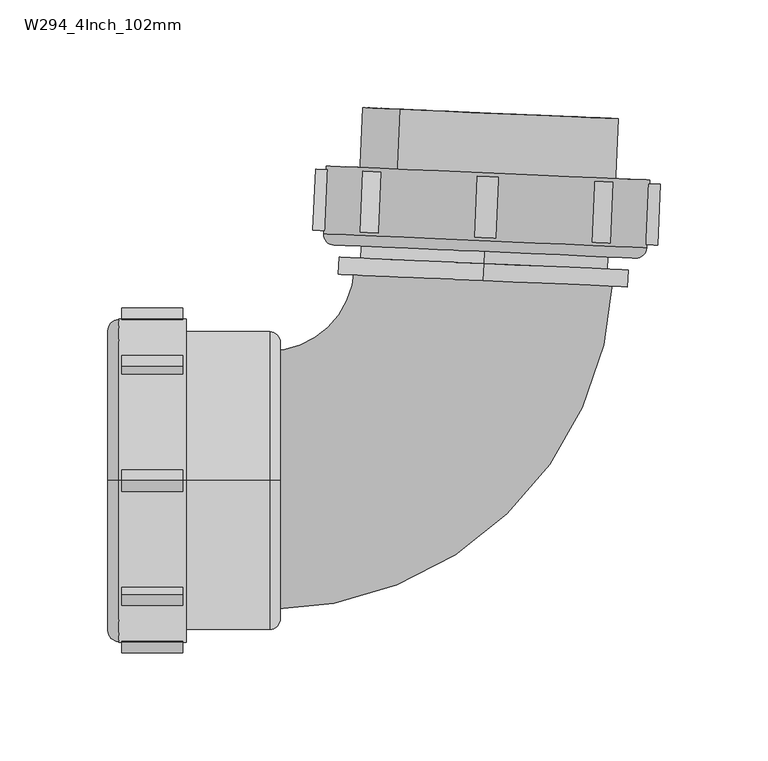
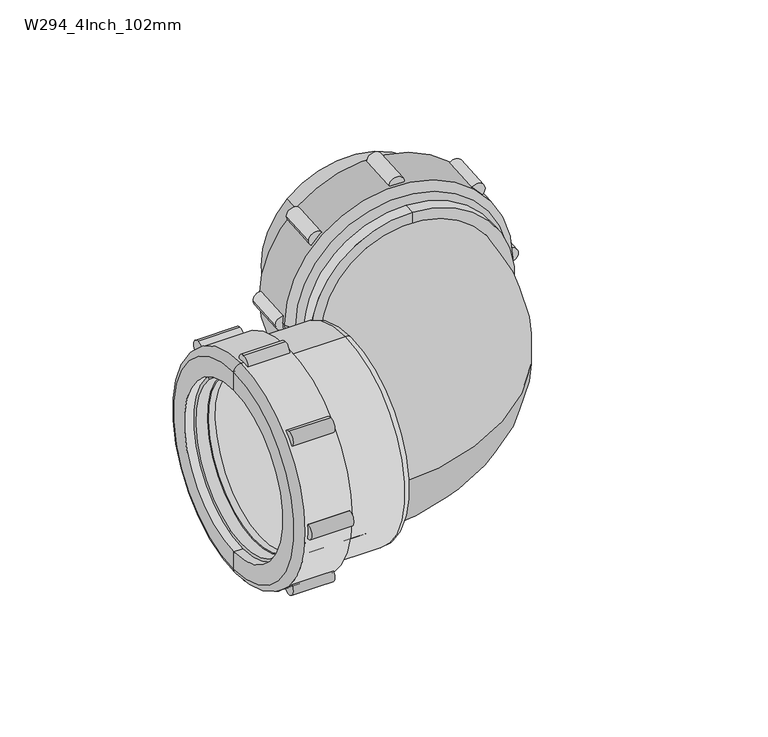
"""IFC4 building model written with IfcOpenShell, lengths in millimetres: pipe fitting geometry, Durapipe_PipeFitting_VulcatheneMechanical_92.5LooseNutSweepBend_W29 : W294_4Inch_102mm."""

from ifc_helpers import new_model, si_unit, point, frame, frame_2d, origin, place, context, project, spatial, polyline, circle_curve, ellipse_curve, trimmed, segment, composite_curve, outline, extrude, source, transform, mapped, element, save
from ifc_brep_helpers import plane_surface, cylinder_surface, revolved_surface, advanced_brep


def w294_4inch_102mm_0dffa293(model_context):
    return source(origin(), model_context, "Body", "SolidModel", [
        advanced_brep(
        [(-40.4718504, 113.7779661, 45.3962554), (-34.4671633, 113.5157958, 39.3858477), (44.2295589, 110.0798227, -39.3858477), (50.2342459, 109.8176524, -45.3962554), (47.7942665, 131.7449528, -42.0021428), (-36.1300657, 135.4091682, 42.0021428), (-34.5205103, 172.2740476, 42.0021428), (49.4038219, 168.6098321, -42.0021428), (47.7790242, 168.6807723, -40.3757972), (-32.8957126, 172.2031074, 40.3757972), (45.7725324, 122.7245541, -40.3757972), (-34.9022044, 126.2468892, 40.3757972), (44.2890215, 122.7893256, -38.890873), (-33.4186935, 126.1821177, 38.890873), (-34.1094844, 121.7079912, 39.3858477), (-33.6149807, 121.6864007, 38.890873), (44.0927342, 118.2936086, -38.890873), (44.5872379, 118.2720181, -39.3858477)],
        [
            (0, 1),
            (1, 2, circle_curve(frame((4.8811978, 111.7978093, 0.0), z_axis=(0.04361938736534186, 0.9990482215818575, 0.0), x_axis=(0.7064337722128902, -0.030843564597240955, -0.7071067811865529)), 55.7)),
            (2, 3),
            (3, 0, circle_curve(frame((4.8811978, 111.7978093, 0.0), z_axis=(-0.04361938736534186, -0.9990482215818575, 0.0), x_axis=(0.7064337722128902, -0.030843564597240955, -0.7071067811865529)), 64.2)),
            (2, 1, circle_curve(frame((4.8811978, 111.7978093, 0.0), z_axis=(0.04361938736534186, 0.9990482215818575, 0.0), x_axis=(0.7064337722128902, -0.030843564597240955, -0.7071067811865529)), 55.7)),
            (0, 3, circle_curve(frame((4.8811978, 111.7978093, 0.0), z_axis=(-0.04361938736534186, -0.9990482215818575, 0.0), x_axis=(0.7064337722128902, -0.030843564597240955, -0.7071067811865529)), 64.2)),
            (3, 4),
            (4, 5, circle_curve(frame((5.8321004, 133.5770605, 0.0), z_axis=(-0.04361938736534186, -0.9990482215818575, 0.0), x_axis=(0.7064337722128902, -0.030843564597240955, -0.7071067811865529)), 59.4)),
            (5, 0),
            (5, 4, circle_curve(frame((5.8321004, 133.5770605, 0.0), z_axis=(-0.04361938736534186, -0.9990482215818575, 0.0), x_axis=(0.7064337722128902, -0.030843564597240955, -0.7071067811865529)), 59.4)),
            (6, 5),
            (4, 7),
            (7, 6, circle_curve(frame((7.4416558, 170.4419399, 0.0), z_axis=(-0.04361938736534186, -0.9990482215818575, 0.0), x_axis=(0.7064337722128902, -0.030843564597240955, -0.7071067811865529)), 59.4)),
            (6, 7, circle_curve(frame((7.4416558, 170.4419399, 0.0), z_axis=(-0.04361938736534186, -0.9990482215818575, 0.0), x_axis=(0.7064337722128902, -0.030843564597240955, -0.7071067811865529)), 59.4)),
            (7, 8),
            (8, 9, circle_curve(frame((7.4416558, 170.4419399, 0.0), z_axis=(-0.04361938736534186, -0.9990482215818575, 0.0), x_axis=(0.7064337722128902, -0.030843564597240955, -0.7071067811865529)), 57.1)),
            (9, 6),
            (9, 8, circle_curve(frame((7.4416558, 170.4419399, 0.0), z_axis=(-0.04361938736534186, -0.9990482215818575, 0.0), x_axis=(0.7064337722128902, -0.030843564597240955, -0.7071067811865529)), 57.1)),
            (8, 10),
            (10, 11, circle_curve(frame((5.435164, 124.4857217, 0.0), z_axis=(-0.04361938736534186, -0.9990482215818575, 0.0), x_axis=(0.7064337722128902, -0.030843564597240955, -0.7071067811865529)), 57.1)),
            (11, 9),
            (11, 10, circle_curve(frame((5.435164, 124.4857217, 0.0), z_axis=(-0.04361938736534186, -0.9990482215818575, 0.0), x_axis=(0.7064337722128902, -0.030843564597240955, -0.7071067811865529)), 57.1)),
            (10, 12),
            (12, 13, circle_curve(frame((5.435164, 124.4857217, 0.0), z_axis=(-0.04361938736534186, -0.9990482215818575, 0.0), x_axis=(0.7064337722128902, -0.030843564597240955, -0.7071067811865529)), 55.0)),
            (13, 11),
            (13, 12, circle_curve(frame((5.435164, 124.4857217, 0.0), z_axis=(-0.04361938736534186, -0.9990482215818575, 0.0), x_axis=(0.7064337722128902, -0.030843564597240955, -0.7071067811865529)), 55.0)),
            (14, 15),
            (15, 16, circle_curve(frame((5.2388767, 119.9900047, 0.0), z_axis=(0.04361938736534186, 0.9990482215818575, 0.0), x_axis=(0.7064337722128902, -0.030843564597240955, -0.7071067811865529)), 55.0)),
            (16, 17),
            (17, 14, circle_curve(frame((5.2388767, 119.9900047, 0.0), z_axis=(-0.04361938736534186, -0.9990482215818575, 0.0), x_axis=(0.7064337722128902, -0.030843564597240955, -0.7071067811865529)), 55.7)),
            (16, 15, circle_curve(frame((5.2388767, 119.9900047, 0.0), z_axis=(0.04361938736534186, 0.9990482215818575, 0.0), x_axis=(0.7064337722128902, -0.030843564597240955, -0.7071067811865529)), 55.0)),
            (14, 17, circle_curve(frame((5.2388767, 119.9900047, 0.0), z_axis=(-0.04361938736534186, -0.9990482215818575, 0.0), x_axis=(0.7064337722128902, -0.030843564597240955, -0.7071067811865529)), 55.7)),
            (1, 14),
            (17, 2),
            (12, 16),
            (15, 13),
        ],
        [
            plane_surface(frame((4.8811978, 111.7978093, 0.0), z_axis=(-0.04361938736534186, -0.9990482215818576, 0.0), x_axis=(0.7064337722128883, -0.030843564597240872, -0.707106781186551))),
            revolved_surface(polyline([(50.2342459, 109.8176524, -45.3962554), (47.7942665, 131.7449528, -42.0021428)]), (4.6631008, 106.8025682, 0.0), (0.04361938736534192, 0.9990482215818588, 0.0)),
            cylinder_surface(frame((7.5319765, 172.5106248, 0.0), z_axis=(0.04361938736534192, 0.9990482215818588, 0.0), x_axis=(0.7064337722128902, -0.030843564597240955, -0.7071067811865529)), 59.4),
            plane_surface(frame((7.4416558, 170.4419399, 0.0), z_axis=(0.04361938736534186, 0.9990482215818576, 0.0), x_axis=(0.7064337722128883, -0.030843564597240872, -0.707106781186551))),
            revolved_surface(polyline([(47.77902416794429, 168.68077236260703, -40.37579720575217), (45.772532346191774, 122.7245541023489, -40.37579720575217)]), (7.5940179, 173.9316063, 0.0), (0.04361938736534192, 0.9990482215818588, 0.0)),
            plane_surface(frame((5.435164, 124.4857217, 0.0), z_axis=(0.04361938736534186, 0.9990482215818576, 0.0), x_axis=(0.7064337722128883, -0.030843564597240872, -0.707106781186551))),
            plane_surface(frame((5.2388767, 119.9900047, 0.0), z_axis=(-0.04361938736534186, -0.9990482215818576, 0.0), x_axis=(0.7064337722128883, -0.030843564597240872, -0.707106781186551))),
            revolved_surface(polyline([(44.5872378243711, 118.27201815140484, -39.385847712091), (44.22955884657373, 110.07982270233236, -39.385847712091)]), (4.6631008, 106.8025682, 0.0), (0.04361938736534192, 0.9990482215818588, 0.0)),
            revolved_surface(polyline([(44.28902144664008, 122.78932564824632, -38.89087296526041), (44.09273420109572, 118.29360859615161, -38.89087296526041)]), (4.8128814, 110.2331075, 0.0), (0.04361938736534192, 0.9990482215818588, 0.0)),
        ],
        [
            (0, [[1, 2, 3, 4]]),
            (0, [[5, -1, 6, -3]]),
            (1, [[7, 8, 9, -4]]),
            (1, [[-9, 10, -7, -6]]),
            (2, [[11, -8, 12, 13]]),
            (2, [[-10, -11, 14, -12]]),
            (3, [[15, 16, 17, -13]]),
            (3, [[-17, 18, -15, -14]]),
            (4, [[-16, 19, 20, 21]]),
            (4, [[22, -19, -18, -21]]),
            (5, [[23, 24, 25, -20]]),
            (5, [[-25, 26, -23, -22]]),
            (6, [[27, 28, 29, 30]]),
            (6, [[-29, 31, -27, 32]]),
            (7, [[33, -30, 34, -2]]),
            (7, [[-34, -32, -33, -5]]),
            (8, [[-24, 35, -28, 36]]),
            (8, [[-31, -35, -26, -36]]),
        ],
    ),
        advanced_brep(
        [(-68.6952178, 146.0397582, 0.0), (-70.0692285, 114.5697392, 0.0), (79.7880047, 108.0268311, 0.0), (81.1620154, 139.4968501, 0.0), (-59.7037838, 145.6471837, 0.0), (72.1705814, 139.8894246, 0.0), (-65.2920844, 109.3564012, 0.0), (-52.8039816, 108.8111588, 0.0), (62.0865639, 103.7949293, 0.0), (74.5746666, 103.2496869, 0.0), (-61.0559849, 114.6766888, 0.0), (70.8183804, 108.9189297, 0.0), (-52.564075, 114.305924, 0.0), (62.3264705, 109.2896945, 0.0)],
        [
            (0, 1),
            (1, 2, circle_curve(frame((4.8593881, 111.2982852, 0.0), z_axis=(0.0436193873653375, 0.9990482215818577, 0.0), x_axis=(0.9990482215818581, -0.04361938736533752, 0.0)), 75.0)),
            (2, 3),
            (3, 0, circle_curve(frame((6.2333988, 142.7683041, 0.0), z_axis=(-0.0436193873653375, -0.9990482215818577, 0.0), x_axis=(0.9990482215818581, -0.04361938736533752, 0.0)), 75.0)),
            (2, 1, circle_curve(frame((4.8593881, 111.2982852, 0.0), z_axis=(0.0436193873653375, 0.9990482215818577, 0.0), x_axis=(0.9990482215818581, -0.04361938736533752, 0.0)), 75.0)),
            (0, 3, circle_curve(frame((6.2333988, 142.7683041, 0.0), z_axis=(-0.0436193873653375, -0.9990482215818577, 0.0), x_axis=(0.9990482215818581, -0.04361938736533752, 0.0)), 75.0)),
            (4, 0),
            (3, 5),
            (5, 4, circle_curve(frame((6.2333988, 142.7683041, 0.0), z_axis=(-0.0436193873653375, -0.9990482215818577, 0.0), x_axis=(0.9990482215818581, -0.04361938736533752, 0.0)), 66.0)),
            (4, 5, circle_curve(frame((6.2333988, 142.7683041, 0.0), z_axis=(-0.0436193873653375, -0.9990482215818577, 0.0), x_axis=(0.9990482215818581, -0.04361938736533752, 0.0)), 66.0)),
            (6, 7),
            (7, 8, circle_curve(frame((4.6412911, 106.3030441, 0.0), z_axis=(0.0436193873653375, 0.9990482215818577, 0.0), x_axis=(0.9990482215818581, -0.04361938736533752, 0.0)), 57.5)),
            (8, 9),
            (9, 6, circle_curve(frame((4.6412911, 106.3030441, 0.0), z_axis=(-0.0436193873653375, -0.9990482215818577, 0.0), x_axis=(0.9990482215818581, -0.04361938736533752, 0.0)), 70.0)),
            (8, 7, circle_curve(frame((4.6412911, 106.3030441, 0.0), z_axis=(0.0436193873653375, 0.9990482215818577, 0.0), x_axis=(0.9990482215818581, -0.04361938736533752, 0.0)), 57.5)),
            (6, 9, circle_curve(frame((4.6412911, 106.3030441, 0.0), z_axis=(-0.0436193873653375, -0.9990482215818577, 0.0), x_axis=(0.9990482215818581, -0.04361938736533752, 0.0)), 70.0)),
            (1, 6, circle_curve(frame((-65.0739874, 114.3516423, 0.0), z_axis=(0.0, 0.0, 1.0000000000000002), x_axis=(-0.043619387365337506, -0.9990482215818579, 0.0)), 5.0)),
            (9, 2, circle_curve(frame((74.7927636, 108.244928, 0.0), z_axis=(0.0, 0.0, 1.0000000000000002), x_axis=(-0.043619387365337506, -0.9990482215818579, 0.0)), 5.0)),
            (10, 4),
            (5, 11),
            (11, 10, circle_curve(frame((4.8811978, 111.7978093, 0.0), z_axis=(-0.0436193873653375, -0.9990482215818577, 0.0), x_axis=(0.9990482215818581, -0.04361938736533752, 0.0)), 66.0)),
            (10, 11, circle_curve(frame((4.8811978, 111.7978093, 0.0), z_axis=(-0.0436193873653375, -0.9990482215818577, 0.0), x_axis=(0.9990482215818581, -0.04361938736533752, 0.0)), 66.0)),
            (12, 10),
            (11, 13),
            (13, 12, circle_curve(frame((4.8811978, 111.7978093, 0.0), z_axis=(-0.0436193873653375, -0.9990482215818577, 0.0), x_axis=(0.9990482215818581, -0.04361938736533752, 0.0)), 57.5)),
            (12, 13, circle_curve(frame((4.8811978, 111.7978093, 0.0), z_axis=(-0.0436193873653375, -0.9990482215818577, 0.0), x_axis=(0.9990482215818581, -0.04361938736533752, 0.0)), 57.5)),
            (7, 12),
            (13, 8),
        ],
        [
            cylinder_surface(frame((-63.439928, -1453.0132368, 0.0), z_axis=(0.043619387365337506, 0.9990482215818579, 0.0), x_axis=(0.9990482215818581, -0.04361938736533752, 0.0)), 75.0),
            plane_surface(frame((6.2333988, 142.7683041, 0.0), z_axis=(0.0436193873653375, 0.9990482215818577, 0.0), x_axis=(0.9990482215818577, -0.0436193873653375, 0.0))),
            plane_surface(frame((4.6412911, 106.3030441, 0.0), z_axis=(-0.0436193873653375, -0.9990482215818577, 0.0), x_axis=(0.9990482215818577, -0.0436193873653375, 0.0))),
            revolved_surface(trimmed(ellipse_curve(frame((74.7927636, 108.244928, 0.0), z_axis=(0.0, 0.0, 1.0000000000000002), x_axis=(-0.043619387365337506, -0.9990482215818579, 0.0)), 5.0, 5.0), [point((74.5746666, 103.2496869, 0.0))], [point((79.7880047, 108.0268311, 0.0))], True, "CARTESIAN"), (-63.439928, -1453.0132368, 0.0), (0.043619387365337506, 0.9990482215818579, 0.0)),
            revolved_surface(polyline([(72.17058137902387, 139.8894246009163, 0.0), (70.81838036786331, 108.918929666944, 0.0)]), (-63.439928, -1453.0132368, 0.0), (0.043619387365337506, 0.9990482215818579, 0.0)),
            plane_surface(frame((4.8811978, 111.7978093, 0.0), z_axis=(0.0436193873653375, 0.9990482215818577, 0.0), x_axis=(0.9990482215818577, -0.0436193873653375, 0.0))),
            revolved_surface(polyline([(62.326470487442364, 109.2896945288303, 0.0), (62.086563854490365, 103.79492925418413, 0.0)]), (-63.439928, -1453.0132368, 0.0), (0.043619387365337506, 0.9990482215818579, 0.0)),
        ],
        [
            (0, [[1, 2, 3, 4]]),
            (0, [[-3, 5, -1, 6]]),
            (1, [[7, -4, 8, 9]]),
            (1, [[-8, -6, -7, 10]]),
            (2, [[11, 12, 13, 14]]),
            (2, [[-13, 15, -11, 16]]),
            (3, [[17, -14, 18, -2]]),
            (3, [[-18, -16, -17, -5]]),
            (4, [[19, -9, 20, 21]]),
            (4, [[-20, -10, -19, 22]]),
            (5, [[23, -21, 24, 25]]),
            (5, [[-24, -22, -23, 26]]),
            (6, [[27, -25, 28, -12]]),
            (6, [[-28, -26, -27, -15]]),
        ],
    ),
        extrude(outline(composite_curve([segment(trimmed(circle_curve(frame_2d((0.0, 5.0)), 5.0), [point((0.0, 10.0000001))], [point((0.0, 0.0))], False, "CARTESIAN"), True, "CONTINUOUS"), segment(trimmed(circle_curve(frame_2d((0.0, 5.0)), 5.0), [point((0.0, 0.0))], [point((0.0, 10.0000001))], False, "CARTESIAN"), True, "CONTINUOUS")], self_intersect=False)), frame((9.9200583, 112.5787606, -75.0), z_axis=(0.0436193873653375, 0.9990482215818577, 0.0), x_axis=(0.0, 0.0, -1.0)), (0.0, 0.0, 1.0), 28.2),
        extrude(outline(composite_curve([segment(trimmed(circle_curve(frame_2d((-21.9669914, -48.0330086)), 5.0), [point((-21.9669914, -43.0330086))], [point((-21.9669914, -53.0330086))], False, "CARTESIAN"), True, "CONTINUOUS"), segment(trimmed(circle_curve(frame_2d((-21.9669914, -48.0330086)), 5.0), [point((-21.9669914, -53.0330086))], [point((-21.9669914, -43.0330086))], False, "CARTESIAN"), True, "CONTINUOUS")], self_intersect=False)), frame((9.9200583, 112.5787606, -75.0), z_axis=(0.0436193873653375, 0.9990482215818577, 0.0), x_axis=(0.0, 0.0, -1.0)), (0.0, 0.0, 1.0), 28.2),
        extrude(outline(composite_curve([segment(trimmed(circle_curve(frame_2d((-75.0, -70.0)), 5.0), [point((-75.0, -65.0))], [point((-75.0, -75.0))], False, "CARTESIAN"), True, "CONTINUOUS"), segment(trimmed(circle_curve(frame_2d((-75.0, -70.0)), 5.0), [point((-75.0, -75.0))], [point((-75.0, -65.0))], False, "CARTESIAN"), True, "CONTINUOUS")], self_intersect=False)), frame((9.9200583, 112.5787606, -75.0), z_axis=(0.0436193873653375, 0.9990482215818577, 0.0), x_axis=(0.0, 0.0, -1.0)), (0.0, 0.0, 1.0), 28.2),
        extrude(outline(composite_curve([segment(trimmed(circle_curve(frame_2d((-128.0330086, -48.0330086)), 5.0), [point((-128.0330086, -43.0330086))], [point((-128.0330086, -53.0330086))], False, "CARTESIAN"), True, "CONTINUOUS"), segment(trimmed(circle_curve(frame_2d((-128.0330086, -48.0330086)), 5.0), [point((-128.0330086, -53.0330086))], [point((-128.0330086, -43.0330086))], False, "CARTESIAN"), True, "CONTINUOUS")], self_intersect=False)), frame((9.9200583, 112.5787606, -75.0), z_axis=(0.0436193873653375, 0.9990482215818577, 0.0), x_axis=(0.0, 0.0, -1.0)), (0.0, 0.0, 1.0), 28.2),
        extrude(outline(composite_curve([segment(trimmed(circle_curve(frame_2d((-150.0, 5.0)), 5.0), [point((-150.0, 10.0000001))], [point((-150.0, 0.0))], False, "CARTESIAN"), True, "CONTINUOUS"), segment(trimmed(circle_curve(frame_2d((-150.0, 5.0)), 5.0), [point((-150.0, 0.0))], [point((-150.0, 10.0000001))], False, "CARTESIAN"), True, "CONTINUOUS")], self_intersect=False)), frame((9.9200583, 112.5787606, -75.0), z_axis=(0.0436193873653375, 0.9990482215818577, 0.0), x_axis=(0.0, 0.0, -1.0)), (0.0, 0.0, 1.0), 28.2),
        extrude(outline(composite_curve([segment(trimmed(circle_curve(frame_2d((-128.0330086, 58.0330087)), 5.0), [point((-128.0330086, 63.0330087))], [point((-128.0330086, 53.0330087))], False, "CARTESIAN"), True, "CONTINUOUS"), segment(trimmed(circle_curve(frame_2d((-128.0330086, 58.0330087)), 5.0), [point((-128.0330086, 53.0330087))], [point((-128.0330086, 63.0330087))], False, "CARTESIAN"), True, "CONTINUOUS")], self_intersect=False)), frame((9.9200583, 112.5787606, -75.0), z_axis=(0.0436193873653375, 0.9990482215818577, 0.0), x_axis=(0.0, 0.0, -1.0)), (0.0, 0.0, 1.0), 28.2),
        extrude(outline(composite_curve([segment(trimmed(circle_curve(frame_2d((-75.0, 80.0000001)), 5.0), [point((-75.0, 85.0000001))], [point((-75.0, 75.0000001))], False, "CARTESIAN"), True, "CONTINUOUS"), segment(trimmed(circle_curve(frame_2d((-75.0, 80.0000001)), 5.0), [point((-75.0, 75.0000001))], [point((-75.0, 85.0000001))], False, "CARTESIAN"), True, "CONTINUOUS")], self_intersect=False)), frame((9.9200583, 112.5787606, -75.0), z_axis=(0.0436193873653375, 0.9990482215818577, 0.0), x_axis=(0.0, 0.0, -1.0)), (0.0, 0.0, 1.0), 28.2),
        extrude(outline(composite_curve([segment(trimmed(circle_curve(frame_2d((-21.9669914, 58.0330087)), 5.0), [point((-21.9669914, 63.0330087))], [point((-21.9669914, 53.0330087))], False, "CARTESIAN"), True, "CONTINUOUS"), segment(trimmed(circle_curve(frame_2d((-21.9669914, 58.0330087)), 5.0), [point((-21.9669914, 53.0330087))], [point((-21.9669914, 63.0330087))], False, "CARTESIAN"), True, "CONTINUOUS")], self_intersect=False)), frame((9.9200583, 112.5787606, -75.0), z_axis=(0.0436193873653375, 0.9990482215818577, 0.0), x_axis=(0.0, 0.0, -1.0)), (0.0, 0.0, 1.0), 28.2),
        advanced_brep(
        [(7.4460177, 170.5418447, 57.15), (7.4460177, 170.5418447, -57.15), (7.4460177, 170.5418447, -50.95), (7.4460177, 170.5418447, 50.95), (4.3970226, 100.708374, 57.15), (4.3970226, 100.708374, -57.15), (4.3970226, 100.708374, 67.25), (4.3970226, 100.708374, -67.25), (4.0524294, 92.8158931, 67.25), (4.0524294, 92.8158931, -67.25), (4.0524294, 92.8158931, 50.95), (4.0524294, 92.8158931, -50.95)],
        [
            (0, 1, circle_curve(frame((7.4460177, 170.5418447, 0.0), z_axis=(0.04361938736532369, 0.9990482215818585, 0.0), x_axis=(0.0, 0.0, -1.0)), 57.15)),
            (1, 2),
            (2, 3, circle_curve(frame((7.4460177, 170.5418447, 0.0), z_axis=(-0.04361938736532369, -0.9990482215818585, 0.0), x_axis=(0.0, 0.0, -1.0)), 50.95)),
            (3, 0),
            (1, 0, circle_curve(frame((7.4460177, 170.5418447, 0.0), z_axis=(0.04361938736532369, 0.9990482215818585, 0.0), x_axis=(0.0, 0.0, -1.0)), 57.15)),
            (3, 2, circle_curve(frame((7.4460177, 170.5418447, 0.0), z_axis=(-0.04361938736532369, -0.9990482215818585, 0.0), x_axis=(0.0, 0.0, -1.0)), 50.95)),
            (4, 5, circle_curve(frame((4.3970226, 100.708374, 0.0), z_axis=(0.04361938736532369, 0.9990482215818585, 0.0), x_axis=(0.0, 0.0, -1.0)), 57.15)),
            (5, 1),
            (0, 4),
            (5, 4, circle_curve(frame((4.3970226, 100.708374, 0.0), z_axis=(0.04361938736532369, 0.9990482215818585, 0.0), x_axis=(0.0, 0.0, -1.0)), 57.15)),
            (6, 7, circle_curve(frame((4.3970226, 100.708374, 0.0), z_axis=(0.04361938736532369, 0.9990482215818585, 0.0), x_axis=(0.0, 0.0, -1.0)), 67.25)),
            (7, 5),
            (4, 6),
            (7, 6, circle_curve(frame((4.3970226, 100.708374, 0.0), z_axis=(0.04361938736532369, 0.9990482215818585, 0.0), x_axis=(0.0, 0.0, -1.0)), 67.25)),
            (8, 9, circle_curve(frame((4.0524294, 92.8158931, 0.0), z_axis=(0.04361938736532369, 0.9990482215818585, 0.0), x_axis=(0.0, 0.0, -1.0)), 67.25)),
            (9, 7),
            (6, 8),
            (9, 8, circle_curve(frame((4.0524294, 92.8158931, 0.0), z_axis=(0.04361938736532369, 0.9990482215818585, 0.0), x_axis=(0.0, 0.0, -1.0)), 67.25)),
            (10, 11, circle_curve(frame((4.0524294, 92.8158931, 0.0), z_axis=(0.04361938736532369, 0.9990482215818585, 0.0), x_axis=(0.0, 0.0, -1.0)), 50.95)),
            (11, 9),
            (8, 10),
            (11, 10, circle_curve(frame((4.0524294, 92.8158931, 0.0), z_axis=(0.04361938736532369, 0.9990482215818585, 0.0), x_axis=(0.0, 0.0, -1.0)), 50.95)),
            (2, 11),
            (10, 3),
        ],
        [
            plane_surface(frame((7.4460177, 170.5418447, 0.0), z_axis=(0.04361938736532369, 0.9990482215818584, 0.0), x_axis=(0.0, 0.0, -1.0))),
            cylinder_surface(frame((7.8822116, 180.5323269, 0.0), z_axis=(-0.043619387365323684, -0.9990482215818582, 0.0), x_axis=(0.0, 0.0, -1.0)), 57.15),
            plane_surface(frame((4.3970226, 100.708374, 0.0), z_axis=(0.04361938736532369, 0.9990482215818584, 0.0), x_axis=(0.0, 0.0, -1.0))),
            cylinder_surface(frame((7.8822116, 180.5323269, 0.0), z_axis=(-0.043619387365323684, -0.9990482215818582, 0.0), x_axis=(0.0, 0.0, -1.0)), 67.25),
            plane_surface(frame((4.0524294, 92.8158931, 0.0), z_axis=(-0.04361938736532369, -0.9990482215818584, 0.0), x_axis=(0.0, 0.0, -1.0))),
            revolved_surface(polyline([(4.052429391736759, 92.8158931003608, -50.95), (7.446017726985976, 170.5418446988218, -50.95)]), (7.8822116, 180.5323269, 0.0), (-0.043619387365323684, -0.9990482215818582, 0.0)),
        ],
        [
            (0, [[1, 2, 3, 4]]),
            (0, [[5, -4, 6, -2]]),
            (1, [[7, 8, -1, 9]]),
            (1, [[10, -9, -5, -8]]),
            (2, [[11, 12, -7, 13]]),
            (2, [[14, -13, -10, -12]]),
            (3, [[15, 16, -11, 17]]),
            (3, [[18, -17, -14, -16]]),
            (4, [[19, 20, -15, 21]]),
            (4, [[22, -21, -18, -20]]),
            (5, [[-3, 23, -19, 24]]),
            (5, [[-6, -24, -22, -23]]),
        ],
    ),
        advanced_brep(
        [(-163.8291742, -45.3962554, -45.3962554), (-163.8291742, 45.3962554, 45.3962554), (-163.8291742, 39.3858477, 39.3858477), (-163.8291742, -39.3858477, -39.3858477), (-142.0291742, -42.0021428, -42.0021428), (-142.0291742, 42.0021428, 42.0021428), (-105.1291742, -42.0021428, -42.0021428), (-105.1291742, 42.0021428, 42.0021428), (-105.1291742, -40.3757972, -40.3757972), (-105.1291742, 40.3757972, 40.3757972), (-151.1291742, -40.3757972, -40.3757972), (-151.1291742, 40.3757972, 40.3757972), (-151.1291742, -38.890873, -38.890873), (-151.1291742, 38.890873, 38.890873), (-155.6291742, -39.3858477, -39.3858477), (-155.6291742, 39.3858477, 39.3858477), (-155.6291742, 38.890873, 38.890873), (-155.6291742, -38.890873, -38.890873)],
        [
            (0, 1, circle_curve(frame((-163.8291742, 0.0, 0.0), z_axis=(-1.0, 0.0, 0.0), x_axis=(0.0, 0.7071067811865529, 0.7071067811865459)), 64.2)),
            (1, 2),
            (2, 3, circle_curve(frame((-163.8291742, 0.0, 0.0), z_axis=(1.0, 0.0, 0.0), x_axis=(0.0, 0.7071067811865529, 0.7071067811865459)), 55.7)),
            (3, 0),
            (1, 0, circle_curve(frame((-163.8291742, 0.0, 0.0), z_axis=(-1.0, 0.0, 0.0), x_axis=(0.0, 0.7071067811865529, 0.7071067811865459)), 64.2)),
            (3, 2, circle_curve(frame((-163.8291742, 0.0, 0.0), z_axis=(1.0, 0.0, 0.0), x_axis=(0.0, 0.7071067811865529, 0.7071067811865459)), 55.7)),
            (0, 4),
            (4, 5, circle_curve(frame((-142.0291742, 0.0, 0.0), z_axis=(-1.0, 0.0, 0.0), x_axis=(0.0, 0.7071067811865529, 0.7071067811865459)), 59.4)),
            (5, 1),
            (5, 4, circle_curve(frame((-142.0291742, 0.0, 0.0), z_axis=(-1.0, 0.0, 0.0), x_axis=(0.0, 0.7071067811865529, 0.7071067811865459)), 59.4)),
            (6, 7, circle_curve(frame((-105.1291742, 0.0, 0.0), z_axis=(-1.0, 0.0, 0.0), x_axis=(0.0, 0.7071067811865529, 0.7071067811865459)), 59.4)),
            (7, 5),
            (4, 6),
            (7, 6, circle_curve(frame((-105.1291742, 0.0, 0.0), z_axis=(-1.0, 0.0, 0.0), x_axis=(0.0, 0.7071067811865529, 0.7071067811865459)), 59.4)),
            (6, 8),
            (8, 9, circle_curve(frame((-105.1291742, 0.0, 0.0), z_axis=(-1.0, 0.0, 0.0), x_axis=(0.0, 0.7071067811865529, 0.7071067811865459)), 57.1)),
            (9, 7),
            (9, 8, circle_curve(frame((-105.1291742, 0.0, 0.0), z_axis=(-1.0, 0.0, 0.0), x_axis=(0.0, 0.7071067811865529, 0.7071067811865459)), 57.1)),
            (8, 10),
            (10, 11, circle_curve(frame((-151.1291742, 0.0, 0.0), z_axis=(-1.0, 0.0, 0.0), x_axis=(0.0, 0.7071067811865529, 0.7071067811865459)), 57.1)),
            (11, 9),
            (11, 10, circle_curve(frame((-151.1291742, 0.0, 0.0), z_axis=(-1.0, 0.0, 0.0), x_axis=(0.0, 0.7071067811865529, 0.7071067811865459)), 57.1)),
            (10, 12),
            (12, 13, circle_curve(frame((-151.1291742, 0.0, 0.0), z_axis=(-1.0, 0.0, 0.0), x_axis=(0.0, 0.7071067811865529, 0.7071067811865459)), 55.0)),
            (13, 11),
            (13, 12, circle_curve(frame((-151.1291742, 0.0, 0.0), z_axis=(-1.0, 0.0, 0.0), x_axis=(0.0, 0.7071067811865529, 0.7071067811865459)), 55.0)),
            (14, 15, circle_curve(frame((-155.6291742, 0.0, 0.0), z_axis=(-1.0, 0.0, 0.0), x_axis=(0.0, 0.7071067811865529, 0.7071067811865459)), 55.7)),
            (15, 16),
            (16, 17, circle_curve(frame((-155.6291742, 0.0, 0.0), z_axis=(1.0, 0.0, 0.0), x_axis=(0.0, 0.7071067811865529, 0.7071067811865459)), 55.0)),
            (17, 14),
            (15, 14, circle_curve(frame((-155.6291742, 0.0, 0.0), z_axis=(-1.0, 0.0, 0.0), x_axis=(0.0, 0.7071067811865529, 0.7071067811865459)), 55.7)),
            (17, 16, circle_curve(frame((-155.6291742, 0.0, 0.0), z_axis=(1.0, 0.0, 0.0), x_axis=(0.0, 0.7071067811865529, 0.7071067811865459)), 55.0)),
            (2, 15),
            (14, 3),
            (12, 17),
            (16, 13),
        ],
        [
            plane_surface(frame((-163.8291742, 0.0, 0.0), z_axis=(-1.0, 0.0, 0.0), x_axis=(0.0, 0.707106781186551, 0.707106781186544))),
            revolved_surface(polyline([(-163.8291742, 45.3962554, 45.3962554), (-142.0291742, 42.0021428, 42.0021428)]), (-168.8291742, 0.0, 0.0), (1.0000000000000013, 0.0, 0.0)),
            cylinder_surface(frame((-103.0585185, 0.0, 0.0), z_axis=(1.0000000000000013, 0.0, 0.0), x_axis=(0.0, 0.7071067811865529, 0.7071067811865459)), 59.4),
            plane_surface(frame((-105.1291742, 0.0, 0.0), z_axis=(1.0, 0.0, 0.0), x_axis=(0.0, 0.707106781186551, 0.707106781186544))),
            revolved_surface(polyline([(-105.12917420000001, 40.37579720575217, 40.37579720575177), (-151.12917420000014, 40.37579720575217, 40.37579720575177)]), (-101.6361833, 0.0, 0.0), (1.0000000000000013, 0.0, 0.0)),
            plane_surface(frame((-151.1291742, 0.0, 0.0), z_axis=(1.0, 0.0, 0.0), x_axis=(0.0, 0.707106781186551, 0.707106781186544))),
            plane_surface(frame((-155.6291742, 0.0, 0.0), z_axis=(-1.0, 0.0, 0.0), x_axis=(0.0, 0.707106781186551, 0.707106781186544))),
            revolved_surface(polyline([(-155.62917419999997, 39.385847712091, 39.38584771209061), (-163.8291742, 39.385847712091, 39.38584771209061)]), (-168.8291742, 0.0, 0.0), (1.0000000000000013, 0.0, 0.0)),
            revolved_surface(polyline([(-151.12917419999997, 38.89087296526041, 38.89087296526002), (-155.62917419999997, 38.89087296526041, 38.89087296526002)]), (-165.3953667, 0.0, 0.0), (1.0000000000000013, 0.0, 0.0)),
        ],
        [
            (0, [[1, 2, 3, 4]]),
            (0, [[-2, 5, -4, 6]]),
            (1, [[-1, 7, 8, 9]]),
            (1, [[-5, -9, 10, -7]]),
            (2, [[11, 12, -8, 13]]),
            (2, [[-12, 14, -13, -10]]),
            (3, [[-11, 15, 16, 17]]),
            (3, [[-14, -17, 18, -15]]),
            (4, [[19, 20, 21, -16]]),
            (4, [[-19, -18, -21, 22]]),
            (5, [[-20, 23, 24, 25]]),
            (5, [[-22, -25, 26, -23]]),
            (6, [[27, 28, 29, 30]]),
            (6, [[31, -30, 32, -28]]),
            (7, [[-3, 33, -27, 34]]),
            (7, [[-6, -34, -31, -33]]),
            (8, [[35, -29, 36, -24]]),
            (8, [[-35, -26, -36, -32]]),
        ],
    ),
        advanced_brep(
        [(-133.6291742, 0.0, -75.0), (-133.6291742, 0.0, 75.0), (-165.1291742, 0.0, 75.0), (-165.1291742, 0.0, -75.0), (-133.6291742, 0.0, -69.5), (-133.6291742, 0.0, 69.5), (-170.1291742, 0.0, -70.0), (-170.1291742, 0.0, 70.0), (-170.1291742, 0.0, 57.5), (-170.1291742, 0.0, -57.5), (-163.8291742, 0.0, -66.0), (-163.8291742, 0.0, 66.0), (-95.7291742, 0.0, 66.0), (-95.7291742, 0.0, -66.0), (-163.8291742, 0.0, -57.5), (-163.8291742, 0.0, 57.5), (-95.1291742, 0.0, -69.5), (-95.1291742, 0.0, 69.5), (-90.1291742, 0.0, -64.5), (-90.1291742, 0.0, 64.5), (-90.1291742, 0.0, 0.0), (-95.7291742, 0.0, 0.0)],
        [
            (0, 1, circle_curve(frame((-133.6291742, 0.0, 0.0), z_axis=(-1.0, 0.0, 0.0), x_axis=(0.0, 0.0, 1.0000000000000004)), 75.0)),
            (1, 2),
            (2, 3, circle_curve(frame((-165.1291742, 0.0, 0.0), z_axis=(1.0, 0.0, 0.0), x_axis=(0.0, 0.0, 1.0000000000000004)), 75.0)),
            (3, 0),
            (1, 0, circle_curve(frame((-133.6291742, 0.0, 0.0), z_axis=(-1.0, 0.0, 0.0), x_axis=(0.0, 0.0, 1.0000000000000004)), 75.0)),
            (3, 2, circle_curve(frame((-165.1291742, 0.0, 0.0), z_axis=(1.0, 0.0, 0.0), x_axis=(0.0, 0.0, 1.0000000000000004)), 75.0)),
            (4, 5, circle_curve(frame((-133.6291742, 0.0, 0.0), z_axis=(-1.0, 0.0, 0.0), x_axis=(0.0, 0.0, 1.0000000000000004)), 69.5)),
            (5, 1),
            (0, 4),
            (5, 4, circle_curve(frame((-133.6291742, 0.0, 0.0), z_axis=(-1.0, 0.0, 0.0), x_axis=(0.0, 0.0, 1.0000000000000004)), 69.5)),
            (6, 7, circle_curve(frame((-170.1291742, 0.0, 0.0), z_axis=(-1.0, 0.0, 0.0), x_axis=(0.0, 0.0, 1.0000000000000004)), 70.0)),
            (7, 8),
            (8, 9, circle_curve(frame((-170.1291742, 0.0, 0.0), z_axis=(1.0, 0.0, 0.0), x_axis=(0.0, 0.0, 1.0000000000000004)), 57.5)),
            (9, 6),
            (7, 6, circle_curve(frame((-170.1291742, 0.0, 0.0), z_axis=(-1.0, 0.0, 0.0), x_axis=(0.0, 0.0, 1.0000000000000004)), 70.0)),
            (9, 8, circle_curve(frame((-170.1291742, 0.0, 0.0), z_axis=(1.0, 0.0, 0.0), x_axis=(0.0, 0.0, 1.0000000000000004)), 57.5)),
            (2, 7, circle_curve(frame((-165.1291742, 0.0, 70.0), z_axis=(0.0, -1.0000000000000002, 0.0), x_axis=(-1.0000000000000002, 0.0, 0.0)), 5.0)),
            (6, 3, circle_curve(frame((-165.1291742, 0.0, -70.0), z_axis=(0.0, -1.0000000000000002, 0.0), x_axis=(-1.0000000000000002, 0.0, 0.0)), 5.0)),
            (10, 11, circle_curve(frame((-163.8291742, 0.0, 0.0), z_axis=(-1.0, 0.0, 0.0), x_axis=(0.0, 0.0, 1.0000000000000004)), 66.0)),
            (11, 12),
            (12, 13, circle_curve(frame((-95.7291742, 0.0, 0.0), z_axis=(1.0, 0.0, 0.0), x_axis=(0.0, 0.0, 1.0000000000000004)), 66.0)),
            (13, 10),
            (11, 10, circle_curve(frame((-163.8291742, 0.0, 0.0), z_axis=(-1.0, 0.0, 0.0), x_axis=(0.0, 0.0, 1.0000000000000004)), 66.0)),
            (13, 12, circle_curve(frame((-95.7291742, 0.0, 0.0), z_axis=(1.0, 0.0, 0.0), x_axis=(0.0, 0.0, 1.0000000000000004)), 66.0)),
            (14, 15, circle_curve(frame((-163.8291742, 0.0, 0.0), z_axis=(-1.0, 0.0, 0.0), x_axis=(0.0, 0.0, 1.0000000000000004)), 57.5)),
            (15, 11),
            (10, 14),
            (15, 14, circle_curve(frame((-163.8291742, 0.0, 0.0), z_axis=(-1.0, 0.0, 0.0), x_axis=(0.0, 0.0, 1.0000000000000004)), 57.5)),
            (8, 15),
            (14, 9),
            (16, 17, circle_curve(frame((-95.1291742, 0.0, 0.0), z_axis=(-1.0, 0.0, 0.0), x_axis=(0.0, 0.0, 1.0000000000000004)), 69.5)),
            (17, 5),
            (4, 16),
            (17, 16, circle_curve(frame((-95.1291742, 0.0, 0.0), z_axis=(-1.0, 0.0, 0.0), x_axis=(0.0, 0.0, 1.0000000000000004)), 69.5)),
            (18, 19, circle_curve(frame((-90.1291742, 0.0, 0.0), z_axis=(-1.0, 0.0, 0.0), x_axis=(0.0, 0.0, 1.0000000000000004)), 64.5)),
            (19, 17, circle_curve(frame((-95.1291742, 0.0, 64.5), z_axis=(0.0, -1.0000000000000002, 0.0), x_axis=(-1.0000000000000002, 0.0, 0.0)), 5.0)),
            (16, 18, circle_curve(frame((-95.1291742, 0.0, -64.5), z_axis=(0.0, -1.0000000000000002, 0.0), x_axis=(-1.0000000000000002, 0.0, 0.0)), 5.0)),
            (19, 18, circle_curve(frame((-90.1291742, 0.0, 0.0), z_axis=(-1.0, 0.0, 0.0), x_axis=(0.0, 0.0, 1.0000000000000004)), 64.5)),
            (20, 19),
            (18, 20),
            (12, 21),
            (21, 13),
        ],
        [
            cylinder_surface(frame((-1730.9309926, 0.0, 0.0), z_axis=(1.0000000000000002, 0.0, 0.0), x_axis=(0.0, 0.0, 1.0000000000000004)), 75.0),
            plane_surface(frame((-133.6291742, 0.0, 0.0), z_axis=(1.0, 0.0, 0.0), x_axis=(0.0, 0.0, 1.0))),
            plane_surface(frame((-170.1291742, 0.0, 0.0), z_axis=(-1.0, 0.0, 0.0), x_axis=(0.0, 0.0, 1.0))),
            revolved_surface(trimmed(ellipse_curve(frame((-165.1291742, 0.0, 70.0), z_axis=(0.0, 1.0000000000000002, 0.0), x_axis=(-1.0000000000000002, 0.0, 0.0)), 5.0, 5.0), [point((-170.1291742, 0.0, 70.0))], [point((-165.1291742, 0.0, 75.0))], True, "CARTESIAN"), (-1730.9309926, 0.0, 0.0), (1.0000000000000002, 0.0, 0.0)),
            revolved_surface(polyline([(-95.72917419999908, 0.0, 66.00000000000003), (-163.82917419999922, 0.0, 66.00000000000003)]), (-1730.9309926, 0.0, 0.0), (1.0000000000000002, 0.0, 0.0)),
            plane_surface(frame((-163.8291742, 0.0, 0.0), z_axis=(1.0, 0.0, 0.0), x_axis=(0.0, 0.0, 1.0))),
            revolved_surface(polyline([(-163.82917419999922, 0.0, 57.50000000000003), (-170.12917419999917, 0.0, 57.50000000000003)]), (-1730.9309926, 0.0, 0.0), (1.0000000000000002, 0.0, 0.0)),
            cylinder_surface(frame((-1730.9309926, 0.0, 0.0), z_axis=(1.0000000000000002, 0.0, 0.0), x_axis=(0.0, 0.0, 1.0000000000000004)), 69.5),
            revolved_surface(trimmed(ellipse_curve(frame((-95.1291742, 0.0, 64.5), z_axis=(0.0, 1.0000000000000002, 0.0), x_axis=(-1.0000000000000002, 0.0, 0.0)), 5.0, 5.0), [point((-95.1291742, 0.0, 69.5))], [point((-90.1291742, 0.0, 64.5))], True, "CARTESIAN"), (-1730.9309926, 0.0, 0.0), (1.0000000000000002, 0.0, 0.0)),
            plane_surface(frame((-90.1291742, 0.0, 0.0), z_axis=(1.0, 0.0, 0.0), x_axis=(0.0, 0.0, 1.0))),
            plane_surface(frame((-95.7291742, 0.0, 0.0), z_axis=(-1.0, 0.0, 0.0), x_axis=(0.0, 0.0, 1.0))),
        ],
        [
            (0, [[1, 2, 3, 4]]),
            (0, [[5, -4, 6, -2]]),
            (1, [[7, 8, -1, 9]]),
            (1, [[10, -9, -5, -8]]),
            (2, [[11, 12, 13, 14]]),
            (2, [[15, -14, 16, -12]]),
            (3, [[-3, 17, -11, 18]]),
            (3, [[-6, -18, -15, -17]]),
            (4, [[19, 20, 21, 22]]),
            (4, [[23, -22, 24, -20]]),
            (5, [[25, 26, -19, 27]]),
            (5, [[28, -27, -23, -26]]),
            (6, [[-13, 29, -25, 30]]),
            (6, [[-16, -30, -28, -29]]),
            (7, [[31, 32, -7, 33]]),
            (7, [[34, -33, -10, -32]]),
            (8, [[35, 36, -31, 37]]),
            (8, [[38, -37, -34, -36]]),
            (9, [[39, -35, 40]]),
            (9, [[-40, -38, -39]]),
            (10, [[-21, 41, 42]]),
            (10, [[-24, -42, -41]]),
        ],
    ),
        extrude(outline(composite_curve([segment(trimmed(circle_curve(frame_2d((75.0, 0.0)), 5.0), [point((75.0, -5.0))], [point((75.0, 5.0))], False, "CARTESIAN"), True, "CONTINUOUS"), segment(trimmed(circle_curve(frame_2d((75.0, 0.0)), 5.0), [point((75.0, 5.0))], [point((75.0, -5.0))], False, "CARTESIAN"), True, "CONTINUOUS")], self_intersect=False)), frame((-163.6291742, 0.0, 0.0), z_axis=(1.0, 0.0, 0.0), x_axis=(0.0, 1.0, 0.0)), (0.0, 0.0, 1.0), 28.2),
        extrude(outline(composite_curve([segment(trimmed(circle_curve(frame_2d((53.0330086, 53.0330086)), 5.0), [point((53.0330086, 48.0330086))], [point((53.0330086, 58.0330086))], False, "CARTESIAN"), True, "CONTINUOUS"), segment(trimmed(circle_curve(frame_2d((53.0330086, 53.0330086)), 5.0), [point((53.0330086, 58.0330086))], [point((53.0330086, 48.0330086))], False, "CARTESIAN"), True, "CONTINUOUS")], self_intersect=False)), frame((-163.6291742, 0.0, 0.0), z_axis=(1.0, 0.0, 0.0), x_axis=(0.0, 1.0, 0.0)), (0.0, 0.0, 1.0), 28.2),
        extrude(outline(composite_curve([segment(trimmed(circle_curve(frame_2d((0.0, 75.0)), 5.0), [point((0.0, 70.0))], [point((0.0, 80.0))], False, "CARTESIAN"), True, "CONTINUOUS"), segment(trimmed(circle_curve(frame_2d((0.0, 75.0)), 5.0), [point((0.0, 80.0))], [point((0.0, 70.0))], False, "CARTESIAN"), True, "CONTINUOUS")], self_intersect=False)), frame((-163.6291742, 0.0, 0.0), z_axis=(1.0, 0.0, 0.0), x_axis=(0.0, 1.0, 0.0)), (0.0, 0.0, 1.0), 28.2),
        extrude(outline(composite_curve([segment(trimmed(circle_curve(frame_2d((-53.0330086, 53.0330086)), 5.0), [point((-53.0330086, 48.0330086))], [point((-53.0330086, 58.0330086))], False, "CARTESIAN"), True, "CONTINUOUS"), segment(trimmed(circle_curve(frame_2d((-53.0330086, 53.0330086)), 5.0), [point((-53.0330086, 58.0330086))], [point((-53.0330086, 48.0330086))], False, "CARTESIAN"), True, "CONTINUOUS")], self_intersect=False)), frame((-163.6291742, 0.0, 0.0), z_axis=(1.0, 0.0, 0.0), x_axis=(0.0, 1.0, 0.0)), (0.0, 0.0, 1.0), 28.2),
        extrude(outline(composite_curve([segment(trimmed(circle_curve(frame_2d((-75.0, 0.0)), 5.0), [point((-75.0, -5.0))], [point((-75.0, 5.0))], False, "CARTESIAN"), True, "CONTINUOUS"), segment(trimmed(circle_curve(frame_2d((-75.0, 0.0)), 5.0), [point((-75.0, 5.0))], [point((-75.0, -5.0))], False, "CARTESIAN"), True, "CONTINUOUS")], self_intersect=False)), frame((-163.6291742, 0.0, 0.0), z_axis=(1.0, 0.0, 0.0), x_axis=(0.0, 1.0, 0.0)), (0.0, 0.0, 1.0), 28.2),
        extrude(outline(composite_curve([segment(trimmed(circle_curve(frame_2d((-53.0330086, -53.0330086)), 5.0), [point((-53.0330086, -58.0330086))], [point((-53.0330086, -48.0330086))], False, "CARTESIAN"), True, "CONTINUOUS"), segment(trimmed(circle_curve(frame_2d((-53.0330086, -53.0330086)), 5.0), [point((-53.0330086, -48.0330086))], [point((-53.0330086, -58.0330086))], False, "CARTESIAN"), True, "CONTINUOUS")], self_intersect=False)), frame((-163.6291742, 0.0, 0.0), z_axis=(1.0, 0.0, 0.0), x_axis=(0.0, 1.0, 0.0)), (0.0, 0.0, 1.0), 28.2),
        extrude(outline(composite_curve([segment(trimmed(circle_curve(frame_2d((0.0, -75.0)), 5.0), [point((0.0, -80.0))], [point((0.0, -70.0))], False, "CARTESIAN"), True, "CONTINUOUS"), segment(trimmed(circle_curve(frame_2d((0.0, -75.0)), 5.0), [point((0.0, -70.0))], [point((0.0, -80.0))], False, "CARTESIAN"), True, "CONTINUOUS")], self_intersect=False)), frame((-163.6291742, 0.0, 0.0), z_axis=(1.0, 0.0, 0.0), x_axis=(0.0, 1.0, 0.0)), (0.0, 0.0, 1.0), 28.2),
        extrude(outline(composite_curve([segment(trimmed(circle_curve(frame_2d((53.0330086, -53.0330086)), 5.0), [point((53.0330086, -58.0330086))], [point((53.0330086, -48.0330086))], False, "CARTESIAN"), True, "CONTINUOUS"), segment(trimmed(circle_curve(frame_2d((53.0330086, -53.0330086)), 5.0), [point((53.0330086, -48.0330086))], [point((53.0330086, -58.0330086))], False, "CARTESIAN"), True, "CONTINUOUS")], self_intersect=False)), frame((-163.6291742, 0.0, 0.0), z_axis=(1.0, 0.0, 0.0), x_axis=(0.0, 1.0, 0.0)), (0.0, 0.0, 1.0), 28.2),
        advanced_brep(
        [(-95.7291742, -60.0, 0.0), (-95.7291742, 60.0, 0.0), (64.1185412, 93.020898, 0.0), (-55.7672454, 98.2552245, 0.0)],
        [
            (0, 1, circle_curve(frame((-95.7291742, 0.0, 0.0), z_axis=(-1.0, 0.0, 0.0), x_axis=(0.0, 1.0, 0.0)), 60.0)),
            (1, 0, circle_curve(frame((-95.7291742, 0.0, 0.0), z_axis=(-1.0, 0.0, 0.0), x_axis=(0.0, 1.0, 0.0)), 60.0)),
            (2, 3, circle_curve(frame((4.1756479, 95.6380613, 0.0), z_axis=(0.0436193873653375, 0.9990482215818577, 0.0), x_axis=(-0.9990482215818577, 0.0436193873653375, 0.0)), 60.0)),
            (3, 2, circle_curve(frame((4.1756479, 95.6380613, 0.0), z_axis=(0.0436193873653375, 0.9990482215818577, 0.0), x_axis=(-0.9990482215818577, 0.0436193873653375, 0.0)), 60.0)),
            (3, 1, circle_curve(frame((-95.7291742, 100.0, 0.0), z_axis=(0.0, 0.0, -1.0), x_axis=(0.0, -1.0, 0.0)), 40.0)),
            (0, 2, circle_curve(frame((-95.7291742, 100.0, 0.0), z_axis=(0.0, 0.0, 1.0), x_axis=(0.0, -1.0, 0.0)), 160.0)),
        ],
        [
            plane_surface(frame((-95.7291742, 0.0, 0.0), z_axis=(-1.0, 0.0, 0.0), x_axis=(0.0, 0.0, 1.0))),
            plane_surface(frame((4.1756479, 95.6380613, 0.0), z_axis=(0.0436193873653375, 0.9990482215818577, 0.0), x_axis=(0.0, 0.0, 1.0))),
            revolved_surface(trimmed(ellipse_curve(frame((-95.7291742, 0.0, 0.0), z_axis=(-1.0, 0.0, 0.0), x_axis=(0.0, 1.0, 0.0)), 60.0, 60.0), [point((-95.7291742, -60.0, 0.0))], [point((-95.7291742, 60.0, 0.0))], True, "CARTESIAN"), (-95.7291742, 100.0, 0.0), (0.0, 0.0, 1.0)),
            revolved_surface(trimmed(ellipse_curve(frame((-95.7291742, 0.0, 0.0), z_axis=(-1.0, 0.0, 0.0), x_axis=(0.0, 1.0, 0.0)), 60.0, 60.0), [point((-95.7291742, 60.0, 0.0))], [point((-95.7291742, -60.0, 0.0))], True, "CARTESIAN"), (-95.7291742, 100.0, 0.0), (0.0, 0.0, 1.0)),
        ],
        [
            (0, [[1, 2]]),
            (1, [[3, 4]]),
            (2, [[5, -1, 6, -4]]),
            (3, [[-6, -2, -5, -3]]),
        ],
    ),
    ])


if __name__ == "__main__":
    model = new_model("IFC4")
    model_context = context("Model", 3, world=origin())
    ifc_project = project(units=[si_unit("LENGTHUNIT", "METRE", prefix="MILLI")], contexts=[model_context])
    site = spatial("IfcSite", under=ifc_project)
    building = spatial("IfcBuilding", under=site)
    placement = place(None, origin())
    w294_4inch_102mm_shape = w294_4inch_102mm_0dffa293(model_context)
    element("IfcPipeFitting", 1, ObjectType="Durapipe_PipeFitting_VulcatheneMechanical_92.5LooseNutSweepBend_W29 : W294_4Inch_102mm", at=placement, inside=building, context=model_context, shape_type="MappedRepresentation", body=[
        mapped(w294_4inch_102mm_shape, transform((0.0, 0.0, 0.0), x_axis=(1.0, 0.0, 0.0), y_axis=(0.0, 1.0, 0.0), z_axis=(0.0, 0.0, 1.0))),
    ])
    save(model, "model.ifc")
